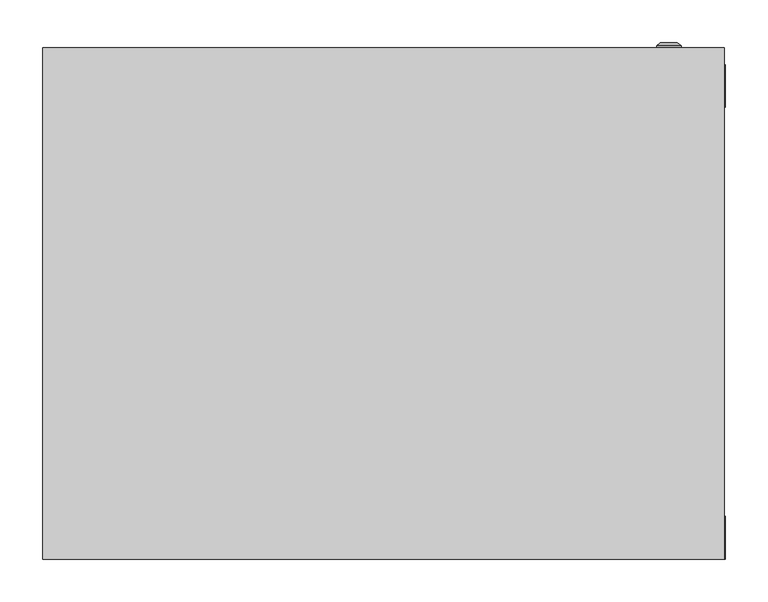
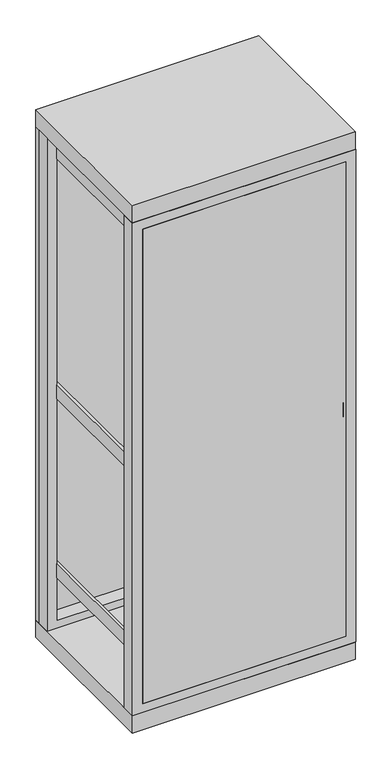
"""IFC4 building model written with IfcOpenShell, lengths in millimetres: proxy geometry, ВРУ-1 : ВРУ-1_2000х800х600."""

from ifc_helpers import new_model, si_unit, frame, origin, origin_with_axes, place, context, project, spatial, polyline, circle_curve, outline, extrude, source, transform, mapped, element, save
from ifc_brep_helpers import plane_surface, cylinder_surface, revolved_surface, advanced_brep


def electrical_equipment_bc0270f2(model_context):
    return source(origin(), model_context, "Body", "SolidModel", [
        extrude(outline(polyline([(365.8707865, 0.0), (-363.3426966, 0.0), (-363.3426966, 10.0), (365.8707865, 10.0), (365.8707865, 0.0)])), frame((0.0, 0.0, 99.1378449), z_axis=(0.0, 0.0, 1.0), x_axis=(1.0, 0.0, 0.0)), (0.0, 0.0, 1.0), 1799.6160511),
        extrude(outline(polyline([(-355.8707865, 125.9831461), (-315.8707865, 125.9831461), (-315.8707865, 93.1179775), (-318.8707865, 93.1179775), (-318.8707865, 122.9831461), (-352.8707865, 122.9831461), (-352.8707865, 93.1179775), (-355.8707865, 93.1179775), (-355.8707865, 125.9831461)])), frame((0.0, 0.0, 189.6067416), z_axis=(0.0, 0.0, 1.0), x_axis=(1.0, 0.0, 0.0)), (0.0, 0.0, 1.0), 1745.3932584),
        extrude(outline(polyline([(315.8707865, 125.9831461), (355.8707865, 125.9831461), (355.8707865, 93.1179775), (352.8707865, 93.1179775), (352.8707865, 122.9831461), (318.8707865, 122.9831461), (318.8707865, 93.1179775), (315.8707865, 93.1179775), (315.8707865, 125.9831461)])), frame((0.0, 0.0, 189.6067416), z_axis=(0.0, 0.0, 1.0), x_axis=(1.0, 0.0, 0.0)), (0.0, 0.0, 1.0), 1745.3932584),
        extrude(outline(polyline([(-355.8707865, 10.0), (-365.8707865, 10.0), (-365.8707865, 580.0), (-355.8707865, 580.0), (-355.8707865, 10.0)])), frame((0.0, 0.0, 1845.5966059), z_axis=(0.0, 0.0, 1.0), x_axis=(1.0, 0.0, 0.0)), (0.0, 0.0, 1.0), 53.0898876),
        extrude(outline(polyline([(365.8707865, 10.0), (355.8707865, 10.0), (355.8707865, 580.0), (365.8707865, 580.0), (365.8707865, 10.0)])), frame((0.0, 0.0, 1845.5966059), z_axis=(0.0, 0.0, 1.0), x_axis=(1.0, 0.0, 0.0)), (0.0, 0.0, 1.0), 53.0898876),
        extrude(outline(polyline([(-355.8707865, 10.0), (-365.8707865, 10.0), (-365.8707865, 580.0), (-355.8707865, 580.0), (-355.8707865, 10.0)])), frame((0.0, 0.0, 255.5966059), z_axis=(0.0, 0.0, 1.0), x_axis=(1.0, 0.0, 0.0)), (0.0, 0.0, 1.0), 53.0898876),
        extrude(outline(polyline([(365.8707865, 10.0), (355.8707865, 10.0), (355.8707865, 580.0), (365.8707865, 580.0), (365.8707865, 10.0)])), frame((0.0, 0.0, 255.5966059), z_axis=(0.0, 0.0, 1.0), x_axis=(1.0, 0.0, 0.0)), (0.0, 0.0, 1.0), 53.0898876),
        extrude(outline(polyline([(-355.8707865, 10.0), (-365.8707865, 10.0), (-365.8707865, 580.0), (-355.8707865, 580.0), (-355.8707865, 10.0)])), frame((0.0, 0.0, 935.5966059), z_axis=(0.0, 0.0, 1.0), x_axis=(1.0, 0.0, 0.0)), (0.0, 0.0, 1.0), 53.0898876),
        extrude(outline(polyline([(365.8707865, 0.0), (355.8707865, 0.0), (355.8707865, 580.0), (365.8707865, 580.0), (365.8707865, 0.0)])), frame((0.0, 0.0, 935.5966059), z_axis=(0.0, 0.0, 1.0), x_axis=(1.0, 0.0, 0.0)), (0.0, 0.0, 1.0), 53.0898876),
        extrude(outline(polyline([(1934.1471543, -400.0), (65.0187804, -400.0), (65.0187804, 401.2640449), (1934.1471543, 401.2640449), (1934.1471543, -400.0)]), holes=[polyline([(99.1378449, 365.8707865), (99.1378449, -363.3426966), (1898.7538959, -363.3426966), (1898.7538959, 365.8707865), (99.1378449, 365.8707865)])]), frame((0.0, 0.0, 0.0), z_axis=(0.0, 1.0, 0.0), x_axis=(0.0, 0.0, 1.0)), (0.0, 0.0, 1.0), 50.0),
        extrude(outline(polyline([(1935.0, -400.0), (65.0187804, -400.0), (65.0187804, 401.2640449), (1935.0, 401.2640449), (1935.0, -400.0)]), holes=[polyline([(93.3701084, 365.8707865), (93.3701084, -363.3426966), (1892.9861595, -363.3426966), (1892.9861595, 365.8707865), (93.3701084, 365.8707865)])]), frame((0.0, 530.0, 0.0), z_axis=(0.0, 1.0, 0.0), x_axis=(0.0, 0.0, 1.0)), (0.0, 0.0, 1.0), 50.0),
        extrude(outline(polyline([(400.0067809, 600.0), (400.0067809, 0.0), (-400.0, 0.0), (-400.0, 600.0), (400.0067809, 600.0)])), frame((0.0, 0.0, 1935.0), z_axis=(0.0, 0.0, 1.0), x_axis=(1.0, 0.0, 0.0)), (0.0, 0.0, 1.0), 65.0),
        advanced_brep(
        [(320.669873, 600.0, 515.0), (349.330127, 600.0, 515.0), (335.0, 600.0, 515.0), (320.669873, 602.366592, 515.0), (349.330127, 602.366592, 515.0), (325.0, 606.0, 515.0), (345.0, 606.0, 515.0), (333.1080471, 606.0, 515.0), (336.8919529, 606.0, 515.0), (333.1080471, 604.9822294, 515.0), (336.8919529, 604.9822294, 515.0), (335.0, 604.9822294, 515.0)],
        [
            (0, 1, circle_curve(frame((335.0, 600.0, 515.0), z_axis=(0.0, -1.0, 0.0), x_axis=(1.0, 0.0, 0.0)), 14.330127)),
            (1, 2),
            (2, 0),
            (1, 0, circle_curve(frame((335.0, 600.0, 515.0), z_axis=(0.0, -1.0, 0.0), x_axis=(1.0, 0.0, 0.0)), 14.330127)),
            (3, 4, circle_curve(frame((335.0, 602.366592, 515.0), z_axis=(0.0, -1.0, 0.0), x_axis=(1.0, 0.0, 0.0)), 14.330127)),
            (4, 1),
            (0, 3),
            (4, 3, circle_curve(frame((335.0, 602.366592, 515.0), z_axis=(0.0, -1.0, 0.0), x_axis=(1.0, 0.0, 0.0)), 14.330127)),
            (5, 6, circle_curve(frame((335.0, 606.0, 515.0), z_axis=(0.0, -1.0, 0.0), x_axis=(1.0, 0.0, 0.0)), 10.0)),
            (6, 4),
            (3, 5),
            (6, 5, circle_curve(frame((335.0, 606.0, 515.0), z_axis=(0.0, -1.0, 0.0), x_axis=(1.0, 0.0, 0.0)), 10.0)),
            (7, 8, circle_curve(frame((335.0, 606.0, 515.0), z_axis=(0.0, -1.0, 0.0), x_axis=(1.0, 0.0, 0.0)), 1.8919529)),
            (8, 6),
            (5, 7),
            (8, 7, circle_curve(frame((335.0, 606.0, 515.0), z_axis=(0.0, -1.0, 0.0), x_axis=(1.0, 0.0, 0.0)), 1.8919529)),
            (9, 10, circle_curve(frame((335.0, 604.9822294, 515.0), z_axis=(0.0, -1.0, 0.0), x_axis=(1.0, 0.0, 0.0)), 1.8919529)),
            (10, 8),
            (7, 9),
            (10, 9, circle_curve(frame((335.0, 604.9822294, 515.0), z_axis=(0.0, -1.0, 0.0), x_axis=(1.0, 0.0, 0.0)), 1.8919529)),
            (11, 10),
            (9, 11),
        ],
        [
            plane_surface(frame((335.0, 600.0, 515.0), z_axis=(0.0, -1.0, 0.0), x_axis=(1.0, 0.0, 0.0))),
            cylinder_surface(frame((335.0, 613.1348851, 515.0), z_axis=(0.0, 1.0, 0.0), x_axis=(1.0, 0.0, 0.0)), 14.330127),
            revolved_surface(polyline([(349.330127, 602.366592, 515.0), (345.0, 606.0, 515.0)]), (335.0, 613.1348851, 515.0), (0.0, 1.0, 0.0)),
            plane_surface(frame((335.0, 606.0, 515.0), z_axis=(0.0, 1.0, 0.0), x_axis=(1.0, 0.0, 0.0))),
            revolved_surface(polyline([(336.8919529, 606.0, 515.0), (336.8919529, 604.9822294, 515.0)]), (335.0, 613.1348851, 515.0), (0.0, 1.0, 0.0)),
            plane_surface(frame((335.0, 604.9822294, 515.0), z_axis=(0.0, 1.0, 0.0), x_axis=(1.0, 0.0, 0.0))),
        ],
        [
            (0, [[1, 2, 3]]),
            (0, [[4, -3, -2]]),
            (1, [[5, 6, -1, 7]]),
            (1, [[8, -7, -4, -6]]),
            (2, [[9, 10, -5, 11]]),
            (2, [[12, -11, -8, -10]]),
            (3, [[13, 14, -9, 15]]),
            (3, [[16, -15, -12, -14]]),
            (4, [[17, 18, -13, 19]]),
            (4, [[20, -19, -16, -18]]),
            (5, [[21, -17, 22]]),
            (5, [[-22, -20, -21]]),
        ],
    ),
        advanced_brep(
        [(320.669873, 600.0, 1485.0), (349.330127, 600.0, 1485.0), (335.0, 600.0, 1485.0), (320.669873, 602.366592, 1485.0), (349.330127, 602.366592, 1485.0), (325.0, 606.0, 1485.0), (345.0, 606.0, 1485.0), (333.1080471, 606.0, 1485.0), (336.8919529, 606.0, 1485.0), (333.1080471, 604.9822294, 1485.0), (336.8919529, 604.9822294, 1485.0), (335.0, 604.9822294, 1485.0)],
        [
            (0, 1, circle_curve(frame((335.0, 600.0, 1485.0), z_axis=(0.0, -1.0, 0.0), x_axis=(1.0, 0.0, 0.0)), 14.330127)),
            (1, 2),
            (2, 0),
            (1, 0, circle_curve(frame((335.0, 600.0, 1485.0), z_axis=(0.0, -1.0, 0.0), x_axis=(1.0, 0.0, 0.0)), 14.330127)),
            (3, 4, circle_curve(frame((335.0, 602.366592, 1485.0), z_axis=(0.0, -1.0, 0.0), x_axis=(1.0, 0.0, 0.0)), 14.330127)),
            (4, 1),
            (0, 3),
            (4, 3, circle_curve(frame((335.0, 602.366592, 1485.0), z_axis=(0.0, -1.0, 0.0), x_axis=(1.0, 0.0, 0.0)), 14.330127)),
            (5, 6, circle_curve(frame((335.0, 606.0, 1485.0), z_axis=(0.0, -1.0, 0.0), x_axis=(1.0, 0.0, 0.0)), 10.0)),
            (6, 4),
            (3, 5),
            (6, 5, circle_curve(frame((335.0, 606.0, 1485.0), z_axis=(0.0, -1.0, 0.0), x_axis=(1.0, 0.0, 0.0)), 10.0)),
            (7, 8, circle_curve(frame((335.0, 606.0, 1485.0), z_axis=(0.0, -1.0, 0.0), x_axis=(1.0, 0.0, 0.0)), 1.8919529)),
            (8, 6),
            (5, 7),
            (8, 7, circle_curve(frame((335.0, 606.0, 1485.0), z_axis=(0.0, -1.0, 0.0), x_axis=(1.0, 0.0, 0.0)), 1.8919529)),
            (9, 10, circle_curve(frame((335.0, 604.9822294, 1485.0), z_axis=(0.0, -1.0, 0.0), x_axis=(1.0, 0.0, 0.0)), 1.8919529)),
            (10, 8),
            (7, 9),
            (10, 9, circle_curve(frame((335.0, 604.9822294, 1485.0), z_axis=(0.0, -1.0, 0.0), x_axis=(1.0, 0.0, 0.0)), 1.8919529)),
            (11, 10),
            (9, 11),
        ],
        [
            plane_surface(frame((335.0, 600.0, 1485.0), z_axis=(0.0, -1.0, 0.0), x_axis=(1.0, 0.0, 0.0))),
            cylinder_surface(frame((335.0, 613.1348851, 1485.0), z_axis=(0.0, 1.0, 0.0), x_axis=(1.0, 0.0, 0.0)), 14.330127),
            revolved_surface(polyline([(349.330127, 602.366592, 1485.0), (345.0, 606.0, 1485.0)]), (335.0, 613.1348851, 1485.0), (0.0, 1.0, 0.0)),
            plane_surface(frame((335.0, 606.0, 1485.0), z_axis=(0.0, 1.0, 0.0), x_axis=(1.0, 0.0, 0.0))),
            revolved_surface(polyline([(336.8919529, 606.0, 1485.0), (336.8919529, 604.9822294, 1485.0)]), (335.0, 613.1348851, 1485.0), (0.0, 1.0, 0.0)),
            plane_surface(frame((335.0, 604.9822294, 1485.0), z_axis=(0.0, 1.0, 0.0), x_axis=(1.0, 0.0, 0.0))),
        ],
        [
            (0, [[1, 2, 3]]),
            (0, [[4, -3, -2]]),
            (1, [[5, 6, -1, 7]]),
            (1, [[8, -7, -4, -6]]),
            (2, [[9, 10, -5, 11]]),
            (2, [[12, -11, -8, -10]]),
            (3, [[13, 14, -9, 15]]),
            (3, [[16, -15, -12, -14]]),
            (4, [[17, 18, -13, 19]]),
            (4, [[20, -19, -16, -18]]),
            (5, [[21, -17, 22]]),
            (5, [[-22, -20, -21]]),
        ],
    ),
        extrude(outline(polyline([(400.0067809, 600.0), (400.0067809, 0.0), (-400.0, 0.0), (-400.0, 600.0), (400.0067809, 600.0)])), origin_with_axes(), (0.0, 0.0, 1.0), 65.0187804),
        extrude(outline(polyline([(400.0, 580.0), (-400.0, 580.0), (-400.0, 600.0), (400.0, 600.0), (400.0, 580.0)])), frame((0.0, 0.0, 65.0187804), z_axis=(0.0, 0.0, 1.0), x_axis=(1.0, 0.0, 0.0)), (0.0, 0.0, 1.0), 1869.9812196),
    ])


if __name__ == "__main__":
    model = new_model("IFC4")
    model_context = context("Model", 3, world=origin())
    ifc_project = project(units=[si_unit("LENGTHUNIT", "METRE", prefix="MILLI")], contexts=[model_context])
    site = spatial("IfcSite", under=ifc_project)
    building = spatial("IfcBuilding", under=site)
    placement = place(None, origin())
    electrical_equipment_shape = electrical_equipment_bc0270f2(model_context)
    element("IfcBuildingElementProxy", 1, Name="ВРУ-1 : ВРУ-1_2000х800х600", ObjectType="ВРУ-1 : ВРУ-1_2000х800х600", at=placement, inside=building, context=model_context, shape_type="MappedRepresentation", body=[
        mapped(electrical_equipment_shape, transform((0.0, 0.0, 0.0), x_axis=(1.0, 0.0, 0.0), y_axis=(0.0, 1.0, 0.0), z_axis=(0.0, 0.0, 1.0))),
    ])
    save(model, "model.ifc")
